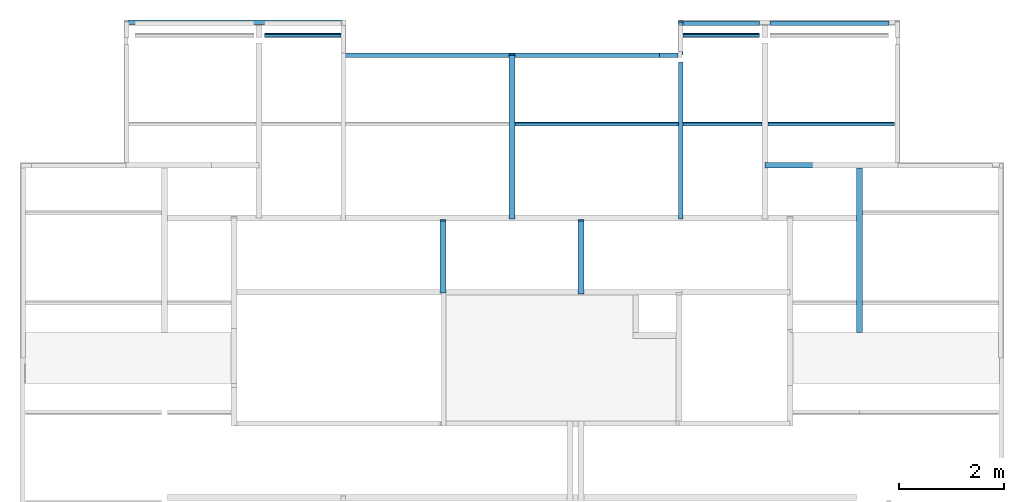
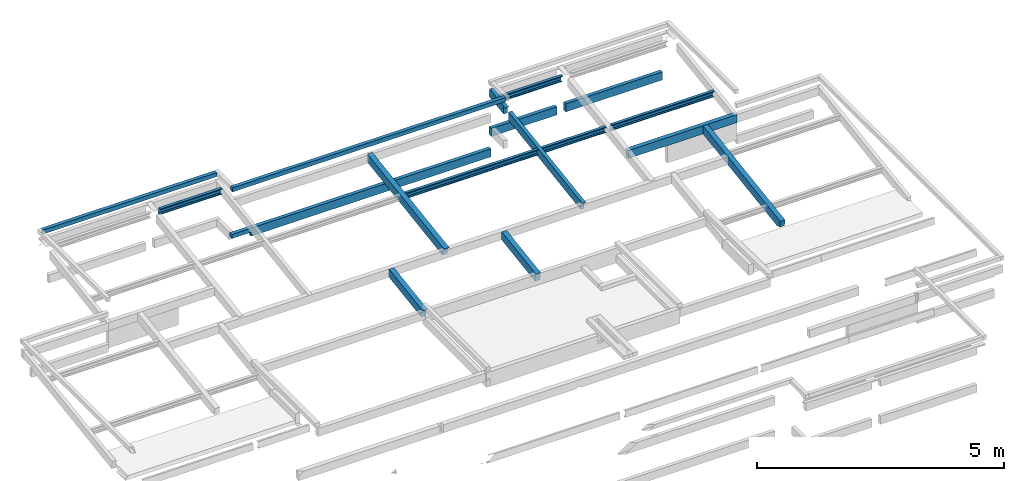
# One storey, part 5 of 9: 15 beams.
"""IFC4 building model written with IfcOpenShell, lengths in metres."""

import ifcopenshell
import ifcopenshell.guid

model = None  # the IFC model being written
_history = None  # IfcOwnerHistory: only IFC2X3 demands one
_inside = {}  # id of a spatial element -> (the spatial element, [elements in it])
_under = {}  # id of a project, library or spatial element -> (it, [spatial elements below it])
_declared = {}  # id of a project -> (the project, [libraries it declares])
_typed = {}  # id of a type object -> (the type object, [elements of that type])
_made_of = {}  # id of a material, layer set ... -> (it, [elements and type objects made of it])


def new_model(schema):
    """Start an empty IFC model of exactly this schema.

    Asked for "IFC4X3", IfcOpenShell would pick the latest addendum, in which some entities
    have other attributes; the version numbers below select the first issue.
    IFC2X3 requires an IfcOwnerHistory on every rooted entity: one is made here for all.
    """
    global model, _history
    if schema == "IFC4X3":
        model = ifcopenshell.file(schema_version=(4, 3, 0, 0))
    else:
        model = ifcopenshell.file(schema=schema)
    _inside.clear()
    _under.clear()
    _declared.clear()
    _typed.clear()
    _made_of.clear()
    _history = None
    if model.schema == "IFC2X3":
        org = make("IfcOrganization", Name="unknown")
        user = make(
            "IfcPersonAndOrganization",
            ThePerson=make("IfcPerson", FamilyName="unknown"),
            TheOrganization=org,
        )
        app = make(
            "IfcApplication",
            ApplicationDeveloper=org,
            Version="unknown",
            ApplicationFullName="unknown",
            ApplicationIdentifier="unknown",
        )
        _history = make(
            "IfcOwnerHistory",
            OwningUser=user,
            OwningApplication=app,
            ChangeAction="ADDED",
            CreationDate=0,
        )
    return model


def make(cls, **values):
    """One entity of the class cls with the attributes given. An attribute that is None is left unset."""
    return model.create_entity(
        cls, **{name: value for name, value in values.items() if value is not None}
    )


def entity(cls, *values):
    """Any entity or typed value of the class cls, its attributes in the order of the schema. None: left unset."""
    e = model.create_entity(cls)
    for i, value in enumerate(values):
        if value is not None:
            e[i] = value
    return e


def rooted(cls, **values):
    """An entity with a GlobalId (a new one), such as an element, a storey or a relation."""
    return make(cls, GlobalId=ifcopenshell.guid.new(), OwnerHistory=_history, **values)


def si_unit(unit_type, name, prefix=None):
    """IfcSIUnit, for example si_unit("LENGTHUNIT", "METRE", prefix="MILLI")."""
    return make("IfcSIUnit", UnitType=unit_type, Prefix=prefix, Name=name)


def converted_unit(unit_type, name, factor, base, dimensions=None, offset=None):
    """IfcConversionBasedUnit, such as the inch: factor (a typed value) times the base unit."""
    return make(
        "IfcConversionBasedUnit"
        if offset is None
        else "IfcConversionBasedUnitWithOffset",
        ConversionOffset=offset,
        Dimensions=None
        if dimensions is None
        else entity("IfcDimensionalExponents", *dimensions),
        UnitType=unit_type,
        Name=name,
        ConversionFactor=make(
            "IfcMeasureWithUnit", ValueComponent=factor, UnitComponent=base
        ),
    )


def derived_unit(unit_type, elements):
    """IfcDerivedUnit: a product of units, each with its exponent."""
    return make(
        "IfcDerivedUnit",
        Elements=[
            make("IfcDerivedUnitElement", Unit=unit, Exponent=power)
            for unit, power in elements
        ],
        UnitType=unit_type,
    )


def assignment(units):
    """IfcUnitAssignment: the units of a project."""
    return None if units is None else make("IfcUnitAssignment", Units=units)


def point(xyz):
    """IfcCartesianPoint."""
    return None if xyz is None else make("IfcCartesianPoint", Coordinates=xyz)


def direction(xyz):
    """IfcDirection."""
    return None if xyz is None else make("IfcDirection", DirectionRatios=xyz)


def frame(location, z_axis=None, x_axis=None):
    """IfcAxis2Placement3D, a coordinate frame: its origin and axes. An axis left out is left unset."""
    return make(
        "IfcAxis2Placement3D",
        Location=point(location),
        Axis=direction(z_axis),
        RefDirection=direction(x_axis),
    )


def origin():
    """The frame at (0, 0, 0) with its axes left unset."""
    return frame((0.0, 0.0, 0.0))


def place(relative_to, where):
    """IfcLocalPlacement: puts the frame where relative to a parent placement (None: the world)."""
    return make(
        "IfcLocalPlacement", PlacementRelTo=relative_to, RelativePlacement=where
    )


def context(
    kind, dimensions, precision=None, world=None, true_north=None, identifier=None
):
    """IfcGeometricRepresentationContext, for example the 3D "Model" context."""
    return make(
        "IfcGeometricRepresentationContext",
        ContextIdentifier=identifier,
        ContextType=kind,
        CoordinateSpaceDimension=dimensions,
        Precision=precision,
        WorldCoordinateSystem=world,
        TrueNorth=true_north,
    )


def subcontext(parent, identifier, kind, view, scale=None):
    """IfcGeometricRepresentationSubContext, for example "Body" below "Model"."""
    return make(
        "IfcGeometricRepresentationSubContext",
        ContextIdentifier=identifier,
        ContextType=kind,
        ParentContext=parent,
        TargetScale=scale,
        TargetView=view,
    )


def project(units=None, contexts=None):
    """IfcProject with its units and contexts."""
    return rooted(
        "IfcProject",
        Name="project",
        RepresentationContexts=contexts,
        UnitsInContext=assignment(units),
    )


def spatial(cls, under=None, at=None, **own):
    """A site, building, storey or space (cls), placed at a placement, below another one or the project."""
    s = rooted(cls, ObjectPlacement=at, **own)
    if under is not None:
        _under.setdefault(under.id(), (under, []))[1].append(s)
    return s


def point_list(points):
    """IfcCartesianPointList2D or 3D."""
    cls = (
        "IfcCartesianPointList2D" if len(points[0]) == 2 else "IfcCartesianPointList3D"
    )
    return make(cls, CoordList=points)


def line(*indices):
    """IfcLineIndex: a straight run through numbered points of an indexed curve."""
    return model.create_entity("IfcLineIndex", indices)


def arc(*indices):
    """IfcArcIndex: an arc through three numbered points of an indexed curve."""
    return model.create_entity("IfcArcIndex", indices)


def indexed_curve(points, segments=None, self_intersect=None):
    """IfcIndexedPolyCurve: lines and arcs through numbered points (the first is 1)."""
    return make(
        "IfcIndexedPolyCurve",
        Points=point_list(points),
        Segments=segments,
        SelfIntersect=self_intersect,
    )


def outline(outer, holes=None, kind="AREA"):
    """IfcArbitraryClosedProfileDef: a profile drawn as a closed curve; with holes, ...WithVoids."""
    if holes is None:
        return make("IfcArbitraryClosedProfileDef", ProfileType=kind, OuterCurve=outer)
    return make(
        "IfcArbitraryProfileDefWithVoids",
        ProfileType=kind,
        OuterCurve=outer,
        InnerCurves=holes,
    )


def extrude(swept, where, along, depth):
    """IfcExtrudedAreaSolid: the profile swept, set in the frame where, extruded along a direction by depth."""
    return make(
        "IfcExtrudedAreaSolid",
        SweptArea=swept,
        Position=where,
        ExtrudedDirection=direction(along),
        Depth=depth,
    )


def shape(context_of_items, identifier, shape_type, items):
    """IfcShapeRepresentation: the items that make up one representation, for example the "Body"."""
    return make(
        "IfcShapeRepresentation",
        ContextOfItems=context_of_items,
        RepresentationIdentifier=identifier,
        RepresentationType=shape_type,
        Items=items,
    )


def source(mapping_origin, context_of_items, identifier, shape_type, items):
    """IfcRepresentationMap: a shape defined once, which mapped items show again and again."""
    return make(
        "IfcRepresentationMap",
        MappingOrigin=mapping_origin,
        MappedRepresentation=shape(context_of_items, identifier, shape_type, items),
    )


def transform(
    local_origin,
    x_axis=None,
    y_axis=None,
    z_axis=None,
    scale=None,
    scale2=None,
    scale3=None,
    uniform=True,
):
    """IfcCartesianTransformationOperator3D, or its non-uniform kind. x_axis, y_axis, z_axis: its Axis1, 2, 3."""
    if uniform:
        return make(
            "IfcCartesianTransformationOperator3D",
            Axis1=direction(x_axis),
            Axis2=direction(y_axis),
            LocalOrigin=point(local_origin),
            Scale=scale,
            Axis3=direction(z_axis),
        )
    return make(
        "IfcCartesianTransformationOperator3DnonUniform",
        Axis1=direction(x_axis),
        Axis2=direction(y_axis),
        LocalOrigin=point(local_origin),
        Scale=scale,
        Axis3=direction(z_axis),
        Scale2=scale2,
        Scale3=scale3,
    )


def mapped(mapping_source, mapping_target):
    """IfcMappedItem: shows the shape of a source again, moved by a transform."""
    return make(
        "IfcMappedItem", MappingSource=mapping_source, MappingTarget=mapping_target
    )


def material(Name=None, Category=None):
    """IfcMaterial."""
    return make("IfcMaterial", Name=Name, Category=Category)


def made_of(thing, what):
    """Note that an element or type object is made of a material, layer set ...; save() writes the relation."""
    if what is not None:
        _made_of.setdefault(what.id(), (what, []))[1].append(thing)
    return thing


def type_object(cls, material=None, **own):
    """A type object (cls), such as IfcWallType, which elements share."""
    return made_of(rooted(cls, **own), material)


def type_shapes(of_type, sources):
    """Give a type object the sources (RepresentationMaps) that its elements show as mapped items."""
    of_type.RepresentationMaps = sources


def element(
    cls,
    number,
    at=None,
    inside=None,
    cuts=None,
    type_object=None,
    material=None,
    context=None,
    identifier="Body",
    shape_type=None,
    held_by="IfcProductDefinitionShape",
    body=None,
    shapes=None,
    **own,
):
    """One element of the class cls, such as IfcWall. Its Tag is "e" and its number.

    at: its placement. inside: the storey or other place that contains it. cuts: it is an
    opening in that element (IfcRelVoidsElement). A single representation is given by context,
    identifier, shape_type and body (its items); several are given by shapes. held_by: the class
    of the entity that holds the representations. save() writes the other relations.
    """
    e = rooted(cls, Tag="e%d" % number, ObjectPlacement=at, **own)
    if body is not None:
        shapes = [shape(context, identifier, shape_type, body)]
    if shapes is not None:
        e.Representation = make(held_by, Representations=shapes)
    if inside is not None:
        _inside.setdefault(inside.id(), (inside, []))[1].append(e)
    if cuts is not None:
        rooted(
            "IfcRelVoidsElement", RelatingBuildingElement=cuts, RelatedOpeningElement=e
        )
    if type_object is not None:
        _typed.setdefault(type_object.id(), (type_object, []))[1].append(e)
    return made_of(e, material)


def aggregate(whole, parts):
    """IfcRelAggregates: a whole, such as a stair, and the parts it consists of."""
    return rooted("IfcRelAggregates", RelatingObject=whole, RelatedObjects=parts)


def save(model, path):
    """Write the relations noted so far, then the file.

    IfcRelAggregates (storeys below a building ...), IfcRelContainedInSpatialStructure (elements
    in a storey), IfcRelDefinesByType, IfcRelAssociatesMaterial and IfcRelDeclares: one each for
    every whole, place, type object, material and project.
    """
    for whole, parts in _under.values():
        aggregate(whole, parts)
    for where, things in _inside.values():
        rooted(
            "IfcRelContainedInSpatialStructure",
            RelatedElements=things,
            RelatingStructure=where,
        )
    for kind, things in _typed.values():
        rooted("IfcRelDefinesByType", RelatedObjects=things, RelatingType=kind)
    for what, things in _made_of.values():
        rooted("IfcRelAssociatesMaterial", RelatedObjects=things, RelatingMaterial=what)
    for by, libraries in _declared.values():
        rooted("IfcRelDeclares", RelatingContext=by, RelatedDefinitions=libraries)
    model.write(path)


model = new_model("IFC4")

# Units and contexts
model_context = context("Model", 3, precision=1e-05, world=origin(), true_north=direction((6.123031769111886e-17, 1.0)))
body_context = subcontext(model_context, "Body", "Model", "MODEL_VIEW")
ifc_project = project(units=[si_unit("LENGTHUNIT", "METRE"), si_unit("AREAUNIT", "SQUARE_METRE"), si_unit("VOLUMEUNIT", "CUBIC_METRE"), converted_unit("PLANEANGLEUNIT", "DEGREE", entity("IfcRatioMeasure", 0.017453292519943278), si_unit("PLANEANGLEUNIT", "RADIAN"), dimensions=[0, 0, 0, 0, 0, 0, 0]), si_unit("MASSUNIT", "GRAM", prefix="KILO"), derived_unit("MASSDENSITYUNIT", [(si_unit("MASSUNIT", "GRAM", prefix="KILO"), 1), (si_unit("LENGTHUNIT", "METRE"), -3)]), derived_unit("IONCONCENTRATIONUNIT", [(si_unit("MASSUNIT", "GRAM", prefix="KILO"), 1), (si_unit("LENGTHUNIT", "METRE"), -3)]), derived_unit("MOMENTOFINERTIAUNIT", [(si_unit("LENGTHUNIT", "METRE"), 4)]), si_unit("TIMEUNIT", "SECOND"), si_unit("FREQUENCYUNIT", "HERTZ"), si_unit("THERMODYNAMICTEMPERATUREUNIT", "DEGREE_CELSIUS"), derived_unit("THERMALTRANSMITTANCEUNIT", [(si_unit("MASSUNIT", "GRAM", prefix="KILO"), 1), (si_unit("THERMODYNAMICTEMPERATUREUNIT", "KELVIN"), -1), (si_unit("TIMEUNIT", "SECOND"), -3)]), derived_unit("THERMALCONDUCTANCEUNIT", [(si_unit("MASSUNIT", "GRAM", prefix="KILO"), 1), (si_unit("THERMODYNAMICTEMPERATUREUNIT", "KELVIN"), -1), (si_unit("TIMEUNIT", "SECOND"), -3), (si_unit("LENGTHUNIT", "METRE"), 1)]), derived_unit("VOLUMETRICFLOWRATEUNIT", [(si_unit("LENGTHUNIT", "METRE"), 3), (si_unit("TIMEUNIT", "SECOND"), -1)]), derived_unit("MASSFLOWRATEUNIT", [(si_unit("MASSUNIT", "GRAM", prefix="KILO"), 1), (si_unit("TIMEUNIT", "SECOND"), -1)]), derived_unit("ROTATIONALFREQUENCYUNIT", [(si_unit("TIMEUNIT", "SECOND"), -1)]), si_unit("ELECTRICCURRENTUNIT", "AMPERE"), si_unit("ELECTRICVOLTAGEUNIT", "VOLT"), si_unit("POWERUNIT", "WATT"), si_unit("FORCEUNIT", "NEWTON", prefix="KILO"), si_unit("ILLUMINANCEUNIT", "LUX"), si_unit("LUMINOUSFLUXUNIT", "LUMEN"), si_unit("LUMINOUSINTENSITYUNIT", "CANDELA"), derived_unit("USERDEFINED", [(si_unit("MASSUNIT", "GRAM", prefix="KILO"), -1), (si_unit("LENGTHUNIT", "METRE"), -2), (si_unit("TIMEUNIT", "SECOND"), 3), (si_unit("LUMINOUSFLUXUNIT", "LUMEN"), 1)]), derived_unit("USERDEFINED", [(si_unit("MASSUNIT", "GRAM", prefix="KILO"), 1), (si_unit("TIMEUNIT", "SECOND"), -3), (si_unit("LENGTHUNIT", "METRE"), 3), (si_unit("ELECTRICCURRENTUNIT", "AMPERE"), -2)]), derived_unit("SOUNDPOWERUNIT", [(si_unit("MASSUNIT", "GRAM", prefix="KILO"), 1), (si_unit("TIMEUNIT", "SECOND"), -3), (si_unit("LENGTHUNIT", "METRE"), 2)]), derived_unit("SOUNDPRESSUREUNIT", [(si_unit("MASSUNIT", "GRAM", prefix="KILO"), 1), (si_unit("LENGTHUNIT", "METRE"), -1), (si_unit("TIMEUNIT", "SECOND"), -2)]), derived_unit("LINEARVELOCITYUNIT", [(si_unit("LENGTHUNIT", "METRE"), 1), (si_unit("TIMEUNIT", "SECOND"), -1)]), si_unit("PRESSUREUNIT", "PASCAL"), derived_unit("USERDEFINED", [(si_unit("MASSUNIT", "GRAM", prefix="KILO"), 1), (si_unit("LENGTHUNIT", "METRE"), -2), (si_unit("TIMEUNIT", "SECOND"), -2)]), derived_unit("LINEARFORCEUNIT", [(si_unit("MASSUNIT", "GRAM", prefix="KILO"), 1), (si_unit("TIMEUNIT", "SECOND"), -2)]), derived_unit("PLANARFORCEUNIT", [(si_unit("MASSUNIT", "GRAM", prefix="KILO"), 1), (si_unit("LENGTHUNIT", "METRE"), -1), (si_unit("TIMEUNIT", "SECOND"), -2)]), derived_unit("SPECIFICHEATCAPACITYUNIT", [(si_unit("THERMODYNAMICTEMPERATUREUNIT", "KELVIN"), -1), (si_unit("LENGTHUNIT", "METRE"), 2), (si_unit("TIMEUNIT", "SECOND"), -2)]), derived_unit("HEATINGVALUEUNIT", [(si_unit("LENGTHUNIT", "METRE"), 2), (si_unit("TIMEUNIT", "SECOND"), -2)]), derived_unit("VAPORPERMEABILITYUNIT", [(si_unit("LENGTHUNIT", "METRE"), -1), (si_unit("TIMEUNIT", "SECOND"), 1)]), derived_unit("DYNAMICVISCOSITYUNIT", [(si_unit("MASSUNIT", "GRAM", prefix="KILO"), 1), (si_unit("TIMEUNIT", "SECOND"), -1), (si_unit("LENGTHUNIT", "METRE"), -1)]), derived_unit("THERMALEXPANSIONCOEFFICIENTUNIT", [(si_unit("THERMODYNAMICTEMPERATUREUNIT", "KELVIN"), -1)]), derived_unit("MODULUSOFELASTICITYUNIT", [(si_unit("MASSUNIT", "GRAM", prefix="KILO"), 1), (si_unit("LENGTHUNIT", "METRE"), -1), (si_unit("TIMEUNIT", "SECOND"), -2)]), derived_unit("ISOTHERMALMOISTURECAPACITYUNIT", [(si_unit("LENGTHUNIT", "METRE"), 3), (si_unit("MASSUNIT", "GRAM", prefix="KILO"), -1)]), derived_unit("MOISTUREDIFFUSIVITYUNIT", [(si_unit("TIMEUNIT", "SECOND"), -1), (si_unit("LENGTHUNIT", "METRE"), 2)])], contexts=[model_context])

# Site, building, storey
site_placement = place(None, origin())
site = spatial("IfcSite", under=ifc_project, at=site_placement, Name="Default", CompositionType="ELEMENT")
building_placement = place(site_placement, origin())
building = spatial("IfcBuilding", under=site, at=building_placement, Name="Las nubes", CompositionType="ELEMENT")
storey_placement = place(building_placement, frame((0.0, 0.0, 14.100000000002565)))
storey = spatial("IfcBuildingStorey", under=building, at=storey_placement, Name="CUBIERTA", CompositionType="ELEMENT", Elevation=14.100000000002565)

# Beams
ifc_material_1 = material(Name="Concrete, Cast In Situ", Category="Materials")
beam_type_1 = type_object("IfcBeamType", Name="M_Concrete-Rectangular Beam:(0.085x0.20)", PredefinedType="BEAM", material=ifc_material_1)
shared_shape_1 = source(origin(), body_context, "Body", "SweptSolid", [
    extrude(outline(indexed_curve([(1.7200000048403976, 4.331468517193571e-15), (2.170000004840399, 4.331468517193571e-15), (2.170000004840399, 0.09999999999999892), (-3.890000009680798, 0.09999999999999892), (-3.890000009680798, -0.10000000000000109), (1.7200000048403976, -0.10000000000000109), (1.7200000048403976, 4.331468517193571e-15)], self_intersect=False)), frame((8.237499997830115, -0.7100000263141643, 14.10000000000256), z_axis=(0.0, 1.0, 0.0), x_axis=(-1.0, 0.0, 0.0)), (0.0, 0.0, 1.0), 0.08500000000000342),
])
type_shapes(beam_type_1, [shared_shape_1])
beam_1_placement = place(storey_placement, frame((0.0, 0.0, -14.100000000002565)))
element("IfcBeam", 1, at=beam_1_placement, inside=storey, type_object=beam_type_1, material=ifc_material_1, Name="M_Concrete-Rectangular Beam:(0.085x0.20)", ObjectType="M_Concrete-Rectangular Beam:(0.085x0.20)", PredefinedType="BEAM", context=body_context, shape_type="MappedRepresentation", body=[
    mapped(shared_shape_1, transform((0.0, 0.0, 0.0), scale=1.0)),
])
beam_type_2 = type_object("IfcBeamType", Name="M_Concrete-Rectangular Beam:(0.085x0.20)", PredefinedType="BEAM", material=ifc_material_1)
shared_shape_2 = source(origin(), body_context, "Body", "SweptSolid", [
    extrude(outline(indexed_curve([(-0.10000000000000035, -0.0425000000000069), (0.09999999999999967, -0.042499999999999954), (0.09999999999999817, 0.04250000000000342), (-0.10000000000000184, 0.04249999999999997), (-0.10000000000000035, -0.0425000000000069)], self_intersect=False)), frame((16.497500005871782, -0.052500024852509, 14.100000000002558), z_axis=(-1.0, 0.0, 0.0), x_axis=(0.0, 0.0, -1.0)), (0.0, 0.0, 1.0), 2.2624999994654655),
    extrude(outline(indexed_curve([(-0.10000000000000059, -0.04250000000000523), (0.09999999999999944, -0.04250000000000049), (0.09999999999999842, 0.04250000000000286), (-0.1000000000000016, 0.04250000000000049), (-0.10000000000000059, -0.04250000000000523)], self_intersect=False)), frame((14.035000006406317, -0.05250002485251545, 14.100000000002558), z_axis=(-1.0, 0.0, 0.0), x_axis=(0.0, 0.0, -1.0)), (0.0, 0.0, 1.0), 1.5424999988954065),
])
type_shapes(beam_type_2, [shared_shape_2])
beam_2_placement = place(storey_placement, frame((0.0, 0.0, -14.100000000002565)))
element("IfcBeam", 2, at=beam_2_placement, inside=storey, type_object=beam_type_2, material=ifc_material_1, Name="M_Concrete-Rectangular Beam:(0.085x0.20)", ObjectType="M_Concrete-Rectangular Beam:(0.085x0.20)", PredefinedType="BEAM", context=body_context, shape_type="MappedRepresentation", body=[
    mapped(shared_shape_2, transform((0.0, 0.0, 0.0), scale=1.0)),
])
ifc_material_2 = material(Name="Concrete - Cast-in-Place Concrete - 35 MPa", Category="Materials")
beam_type_3 = type_object("IfcBeamType", Name="M_Concrete-Rectangular Beam:(0.12x0.20)", PredefinedType="BEAM", material=ifc_material_2)
shared_shape_3 = source(origin(), body_context, "Body", "SweptSolid", [
    extrude(outline(indexed_curve([(-1.7954389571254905, -0.08905437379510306), (1.354242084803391, -0.0890543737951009), (1.354242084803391, -0.08265873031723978), (1.2836465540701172, -0.07206940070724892), (1.3110988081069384, 0.11094562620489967), (-1.712351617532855, 0.1109456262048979), (-1.7954389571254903, 0.11094562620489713), (-1.7954389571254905, -0.08905437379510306)], self_intersect=False)), frame((9.262500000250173, -2.429864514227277, 14.695344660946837), z_axis=(1.0, 0.0, 0.0), x_axis=(0.0, -0.988936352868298, -0.14834045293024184)), (0.0, 0.0, 1.0), 0.12000000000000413),
])
type_shapes(beam_type_3, [shared_shape_3])
beam_3_placement = place(storey_placement, frame((0.0, 0.0, -14.100000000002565)))
element("IfcBeam", 3, at=beam_3_placement, inside=storey, type_object=beam_type_3, material=ifc_material_2, Name="M_Concrete-Rectangular Beam:(0.12x0.20)", ObjectType="M_Concrete-Rectangular Beam:(0.12x0.20)", PredefinedType="BEAM", context=body_context, shape_type="MappedRepresentation", body=[
    mapped(shared_shape_3, transform((0.0, 0.0, 0.0), scale=1.0)),
])
beam_type_4 = type_object("IfcBeamType", Name="M_Concrete-Rectangular Beam:(0.115x0.20)", PredefinedType="BEAM", material=ifc_material_1)
shared_shape_4 = source(origin(), body_context, "Body", "SweptSolid", [
    extrude(outline(indexed_curve([(-0.09999999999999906, -0.05750000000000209), (0.1000000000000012, -0.05750000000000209), (0.1000000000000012, 0.05750000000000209), (-0.09999999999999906, 0.05750000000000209), (-0.09999999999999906, -0.05750000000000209)], self_intersect=False)), frame((10.63999999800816, -5.191473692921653, 14.27003520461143), z_axis=(0.0, 0.9889363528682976, 0.14834045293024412), x_axis=(0.0, -0.14834045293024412, 0.9889363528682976)), (0.0, 0.0, 1.0), 1.3981096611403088),
])
type_shapes(beam_type_4, [shared_shape_4])
beam_4_placement = place(storey_placement, frame((0.0, 0.0, -14.100000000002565)))
element("IfcBeam", 4, at=beam_4_placement, inside=storey, type_object=beam_type_4, material=ifc_material_1, Name="M_Concrete-Rectangular Beam:(0.115x0.20)", ObjectType="M_Concrete-Rectangular Beam:(0.115x0.20)", PredefinedType="BEAM", context=body_context, shape_type="MappedRepresentation", body=[
    mapped(shared_shape_4, transform((0.0, 0.0, 0.0), scale=1.0)),
])
beam_type_5 = type_object("IfcBeamType", Name="M_Concrete-Rectangular Beam:(0.115x0.20)", PredefinedType="BEAM", material=ifc_material_1)
shared_shape_5 = source(origin(), body_context, "Body", "SweptSolid", [
    extrude(outline(indexed_curve([(-0.0823067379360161, -0.7210583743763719), (-0.07623836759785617, -0.7210583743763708), (0.07820912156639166, -0.721058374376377), (0.09186967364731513, -0.6299880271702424), (0.11769326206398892, -0.6338615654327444), (0.1176932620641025, 2.4148685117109), (-0.08230673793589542, 2.444868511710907), (-0.08230673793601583, -0.7125641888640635), (-0.08230673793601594, -0.7201481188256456), (-0.0823067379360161, -0.7210583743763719)], self_intersect=False)), frame((15.877498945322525, -5.2156099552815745, 14.284305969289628), z_axis=(1.0, 0.0, 0.0), x_axis=(0.0, 0.14834045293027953, -0.9889363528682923)), (0.0, 0.0, 1.0), 0.11500000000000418),
])
type_shapes(beam_type_5, [shared_shape_5])
beam_5_placement = place(storey_placement, frame((0.0, 0.0, -14.100000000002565)))
element("IfcBeam", 5, at=beam_5_placement, inside=storey, type_object=beam_type_5, material=ifc_material_1, Name="M_Concrete-Rectangular Beam:(0.115x0.20)", ObjectType="M_Concrete-Rectangular Beam:(0.115x0.20)", PredefinedType="BEAM", context=body_context, shape_type="MappedRepresentation", body=[
    mapped(shared_shape_5, transform((0.0, 0.0, 0.0), scale=1.0)),
])
beam_type_6 = type_object("IfcBeamType", Name="M_Concrete-Rectangular Beam:(0.085x0.20)", PredefinedType="BEAM", material=ifc_material_1)
shared_shape_6 = source(origin(), body_context, "Body", "SweptSolid", [
    extrude(outline(indexed_curve([(-1.0190987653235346, 0.08797915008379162), (-1.0200474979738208, 0.08165426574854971), (1.967286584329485, -0.36644584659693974), (1.9672865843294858, -0.16420836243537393), (-0.9477134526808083, 0.2730416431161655), (-0.9477134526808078, 0.08797915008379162), (-1.0190987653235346, 0.08797915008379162)], self_intersect=False)), frame((12.492500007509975, -2.7622866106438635, 14.664179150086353), z_axis=(-1.0, 0.0, 0.0), x_axis=(0.0, 1.0, 0.0)), (0.0, 0.0, -1.0), 0.08500000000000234),
    extrude(outline(indexed_curve([(-0.3588825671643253, -0.08210148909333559), (0.27648017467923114, -0.08210148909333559), (0.20643053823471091, -0.07159404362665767), (0.23485442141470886, 0.11789851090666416), (-0.35888256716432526, 0.11789851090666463), (-0.3588825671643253, -0.08210148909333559)], self_intersect=False)), frame((12.492500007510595, -0.38023306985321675, 15.009820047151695), z_axis=(1.0, 0.0, 0.0), x_axis=(0.0, -0.9889363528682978, -0.14834045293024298)), (0.0, 0.0, 1.0), 0.08500000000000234),
])
type_shapes(beam_type_6, [shared_shape_6])
beam_6_placement = place(storey_placement, frame((0.0, 0.0, -14.100000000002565)))
element("IfcBeam", 6, at=beam_6_placement, inside=storey, type_object=beam_type_6, material=ifc_material_1, Name="M_Concrete-Rectangular Beam:(0.085x0.20)", ObjectType="M_Concrete-Rectangular Beam:(0.085x0.20)", PredefinedType="BEAM", context=body_context, shape_type="MappedRepresentation", body=[
    mapped(shared_shape_6, transform((0.0, 0.0, 0.0), scale=1.0)),
])
ifc_material_3 = material(Name="Concrete - Cast-in-Place Concrete - 28 MPa SLAB", Category="Materials")
beam_type_7 = type_object("IfcBeamType", Name="M_Concrete-Rectangular Beam:(0.10x0.20)", PredefinedType="BEAM", material=ifc_material_3)
shared_shape_7 = source(origin(), body_context, "Body", "SweptSolid", [
    extrude(outline(indexed_curve([(-0.10000000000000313, -0.04999999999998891), (0.0999999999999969, -0.050000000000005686), (0.10000000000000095, 0.04999999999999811), (-0.09999999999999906, 0.05000000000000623), (-0.10000000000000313, -0.04999999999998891)], self_intersect=False)), frame((16.67000000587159, -2.7600000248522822, 14.628300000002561), z_axis=(-1.0, 0.0, 0.0), x_axis=(0.0, 0.0, -1.0)), (0.0, 0.0, 1.0), 2.5349999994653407),
])
type_shapes(beam_type_7, [shared_shape_7])
beam_7_placement = place(storey_placement, frame((0.0, 0.0, -14.100000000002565)))
element("IfcBeam", 7, at=beam_7_placement, inside=storey, type_object=beam_type_7, material=ifc_material_3, Name="M_Concrete-Rectangular Beam:(0.10x0.20)", ObjectType="M_Concrete-Rectangular Beam:(0.10x0.20)", PredefinedType="BEAM", context=body_context, shape_type="MappedRepresentation", body=[
    mapped(shared_shape_7, transform((0.0, 0.0, 0.0), scale=1.0)),
])
ifc_material_4 = material(Name="Steel - 300+", Category="Materials")
beam_type_8 = type_object("IfcBeamType", Name="AUS-C Purlin:CR-1", PredefinedType="BEAM", material=ifc_material_4)
shared_shape_8 = source(origin(), body_context, "Body", "SweptSolid", [
    extrude(outline(indexed_curve([(-0.07614999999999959, -0.03615000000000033), (0.07334999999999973, -0.036150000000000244), (0.078299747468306, -0.03409974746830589), (0.08035000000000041, -0.02914999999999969), (0.08035000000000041, 0.020350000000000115), (0.07932487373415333, 0.022824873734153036), (0.0768500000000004, 0.023850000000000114), (0.06034999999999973, 0.023850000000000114), (0.06034999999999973, 0.02185000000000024), (0.0768499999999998, 0.02185000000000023), (0.07791066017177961, 0.02141066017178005), (0.07834999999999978, 0.020350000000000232), (0.07834999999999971, -0.029150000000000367), (0.07688553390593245, -0.032685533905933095), (0.07334999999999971, -0.03415000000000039), (-0.07615000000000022, -0.03415000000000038), (-0.07721066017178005, -0.033710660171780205), (-0.0776500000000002, -0.03265000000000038), (-0.07765000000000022, 0.02035000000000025), (-0.07721066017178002, 0.021410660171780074), (-0.0761500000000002, 0.02185000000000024), (-0.05965000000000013, 0.02185000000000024), (-0.05965000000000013, 0.023850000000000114), (-0.0761499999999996, 0.023850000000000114), (-0.07862487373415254, 0.02282487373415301), (-0.07964999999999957, 0.020350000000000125), (-0.07964999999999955, -0.032650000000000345), (-0.07862487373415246, -0.03512487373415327)], segments=[line(1, 2), arc(2, 3, 4), line(4, 5), arc(5, 6, 7), line(7, 8, 9, 10), arc(10, 11, 12), line(12, 13), arc(13, 14, 15), line(15, 16), arc(16, 17, 18), line(18, 19), arc(19, 20, 21), line(21, 22, 23, 24), arc(24, 25, 26), line(26, 27), arc(27, 28, 1)], self_intersect=False)), frame((-0.7574999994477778, 0.03415000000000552, 0.0003499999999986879), z_axis=(1.0, 0.0, 0.0), x_axis=(0.0, 0.0, -1.0)), (0.0, 0.0, 1.0), 1.4574999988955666),
])
type_shapes(beam_type_8, [shared_shape_8])
beam_8_placement = place(storey_placement, frame((5.309999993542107, -0.25573925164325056, 0.9306191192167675), z_axis=(0.0, -0.14834045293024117, 0.9889363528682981), x_axis=(-1.0, 0.0, 0.0)))
element("IfcBeam", 8, at=beam_8_placement, inside=storey, type_object=beam_type_8, material=ifc_material_4, Name="AUS-C Purlin:CR-1", ObjectType="AUS-C Purlin:CR-1", PredefinedType="BEAM", context=body_context, shape_type="MappedRepresentation", body=[
    mapped(shared_shape_8, transform((0.0, 0.0, 0.0), scale=1.0)),
])
beam_type_9 = type_object("IfcBeamType", Name="AUS-C Purlin:CR-1", PredefinedType="BEAM", material=ifc_material_4)
shared_shape_9 = source(origin(), body_context, "Body", "SweptSolid", [
    extrude(outline(indexed_curve([(-0.07614999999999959, -0.03615000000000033), (0.07334999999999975, -0.036150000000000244), (0.07829974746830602, -0.03409974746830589), (0.08035000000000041, -0.02914999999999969), (0.08035000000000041, 0.020350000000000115), (0.07932487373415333, 0.022824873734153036), (0.0768500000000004, 0.023850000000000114), (0.060349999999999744, 0.023850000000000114), (0.060349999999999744, 0.02185000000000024), (0.0768499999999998, 0.02185000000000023), (0.07791066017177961, 0.02141066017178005), (0.07834999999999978, 0.020350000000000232), (0.07834999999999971, -0.029150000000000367), (0.07688553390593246, -0.032685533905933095), (0.07334999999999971, -0.03415000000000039), (-0.07615000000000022, -0.03415000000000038), (-0.07721066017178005, -0.033710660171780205), (-0.0776500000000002, -0.03265000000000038), (-0.07765000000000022, 0.02035000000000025), (-0.07721066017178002, 0.021410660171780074), (-0.0761500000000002, 0.02185000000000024), (-0.05965000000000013, 0.02185000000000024), (-0.05965000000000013, 0.023850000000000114), (-0.0761499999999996, 0.023850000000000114), (-0.07862487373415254, 0.02282487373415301), (-0.07964999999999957, 0.020350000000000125), (-0.07964999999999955, -0.032650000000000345), (-0.07862487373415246, -0.03512487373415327)], segments=[line(1, 2), arc(2, 3, 4), line(4, 5), arc(5, 6, 7), line(7, 8, 9, 10), arc(10, 11, 12), line(12, 13), arc(13, 14, 15), line(15, 16), arc(16, 17, 18), line(18, 19), arc(19, 20, 21), line(21, 22, 23, 24), arc(24, 25, 26), line(26, 27), arc(27, 28, 1)], self_intersect=False)), frame((-0.6999999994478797, 0.03415000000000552, 0.0003499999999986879), z_axis=(1.0, 0.0, 0.0), x_axis=(0.0, 0.0, -1.0)), (0.0, 0.0, 1.0), 1.457499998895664),
])
type_shapes(beam_type_9, [shared_shape_9])
beam_9_placement = place(storey_placement, frame((13.33500000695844, -0.255739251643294, 0.9306191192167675), z_axis=(0.0, -0.14834045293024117, 0.9889363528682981), x_axis=(-1.0, 0.0, 0.0)))
element("IfcBeam", 9, at=beam_9_placement, inside=storey, type_object=beam_type_9, material=ifc_material_4, Name="AUS-C Purlin:CR-1", ObjectType="AUS-C Purlin:CR-1", PredefinedType="BEAM", context=body_context, shape_type="MappedRepresentation", body=[
    mapped(shared_shape_9, transform((0.0, 0.0, 0.0), scale=1.0)),
])
beam_type_10 = type_object("IfcBeamType", Name="AUS-C Purlin:CR-1", PredefinedType="BEAM", material=ifc_material_4)
shared_shape_10 = source(origin(), body_context, "Body", "SweptSolid", [
    extrude(outline(indexed_curve([(-0.0761499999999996, -0.023850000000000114), (-0.05965000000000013, -0.023850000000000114), (-0.05965000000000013, -0.02185000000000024), (-0.07615000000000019, -0.02185000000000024), (-0.07721066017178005, -0.021410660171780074), (-0.07765000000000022, -0.020350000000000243), (-0.07765000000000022, 0.03265000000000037), (-0.07721066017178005, 0.033710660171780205), (-0.0761500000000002, 0.03415000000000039), (0.07334999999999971, 0.03415000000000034), (0.07688553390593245, 0.03268553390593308), (0.07834999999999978, 0.029150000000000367), (0.07834999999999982, -0.02035000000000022), (0.07791066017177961, -0.02141066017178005), (0.0768499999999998, -0.02185000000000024), (0.06034999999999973, -0.02185000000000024), (0.06034999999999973, -0.023850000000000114), (0.0768500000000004, -0.023850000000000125), (0.07932487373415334, -0.022824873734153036), (0.08035000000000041, -0.020350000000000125), (0.08035000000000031, 0.029149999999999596), (0.078299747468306, 0.034099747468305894), (0.0733499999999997, 0.03615000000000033), (-0.07614999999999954, 0.036150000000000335), (-0.07862487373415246, 0.03512487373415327), (-0.0796499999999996, 0.032650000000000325), (-0.0796499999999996, -0.020350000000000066), (-0.07862487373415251, -0.022824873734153)], segments=[line(1, 2, 3, 4), arc(4, 5, 6), line(6, 7), arc(7, 8, 9), line(9, 10), arc(10, 11, 12), line(12, 13), arc(13, 14, 15), line(15, 16, 17, 18), arc(18, 19, 20), line(20, 21), arc(21, 22, 23), line(23, 24), arc(24, 25, 26), line(26, 27), arc(27, 28, 1)], self_intersect=False)), frame((-1.5460930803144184, -0.03415000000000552, 0.00034999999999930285), z_axis=(1.0, 0.0, 0.0), x_axis=(0.0, 0.0, -1.0)), (0.0, 0.0, 1.0), 3.1098430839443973),
])
type_shapes(beam_type_10, [shared_shape_10])
beam_10_placement = place(storey_placement, frame((10.928750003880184, -1.9454425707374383, 0.6771636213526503), z_axis=(0.0, -0.14834045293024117, 0.9889363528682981), x_axis=(1.0, 0.0, 0.0)))
element("IfcBeam", 10, at=beam_10_placement, inside=storey, type_object=beam_type_10, material=ifc_material_4, Name="AUS-C Purlin:CR-1", ObjectType="AUS-C Purlin:CR-1", PredefinedType="BEAM", context=body_context, shape_type="MappedRepresentation", body=[
    mapped(shared_shape_10, transform((0.0, 0.0, 0.0), scale=1.0)),
])
beam_type_11 = type_object("IfcBeamType", Name="AUS-C Purlin:CR-1", PredefinedType="BEAM", material=ifc_material_4)
shared_shape_11 = source(origin(), body_context, "Body", "SweptSolid", [
    extrude(outline(indexed_curve([(-0.07614999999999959, -0.023850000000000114), (-0.05965000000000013, -0.023850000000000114), (-0.05965000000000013, -0.02185000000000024), (-0.07615000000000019, -0.02185000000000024), (-0.07721066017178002, -0.021410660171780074), (-0.0776500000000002, -0.020350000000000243), (-0.07765000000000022, 0.03265000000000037), (-0.07721066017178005, 0.033710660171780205), (-0.0761500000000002, 0.03415000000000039), (0.0733499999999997, 0.03415000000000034), (0.07688553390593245, 0.03268553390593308), (0.07834999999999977, 0.029150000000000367), (0.07834999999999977, -0.02035000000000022), (0.07791066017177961, -0.021410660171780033), (0.07684999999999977, -0.02185000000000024), (0.06034999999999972, -0.02185000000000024), (0.06034999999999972, -0.023850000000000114), (0.07685000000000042, -0.023850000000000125), (0.07932487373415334, -0.022824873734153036), (0.0803500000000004, -0.020350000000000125), (0.0803500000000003, 0.029149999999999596), (0.078299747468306, 0.034099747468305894), (0.07334999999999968, 0.03615000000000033), (-0.07614999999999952, 0.036150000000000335), (-0.07862487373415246, 0.03512487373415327), (-0.07964999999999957, 0.032650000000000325), (-0.07964999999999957, -0.020350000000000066), (-0.07862487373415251, -0.022824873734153)], segments=[line(1, 2, 3, 4), arc(4, 5, 6), line(6, 7), arc(7, 8, 9), line(9, 10), arc(10, 11, 12), line(12, 13), arc(13, 14, 15), line(15, 16, 17, 18), arc(18, 19, 20), line(20, 21), arc(21, 22, 23), line(23, 24), arc(24, 25, 26), line(26, 27), arc(27, 28, 1)], self_intersect=False)), frame((-0.7567470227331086, -0.03415000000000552, 0.0003499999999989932), z_axis=(1.0, 0.0, 0.0), x_axis=(0.0, 0.0, -1.0)), (0.0, 0.0, 1.0), 1.4992470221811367),
])
type_shapes(beam_type_11, [shared_shape_11])
beam_11_placement = place(storey_placement, frame((13.33500000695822, -1.9454425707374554, 0.6771636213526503), z_axis=(0.0, -0.14834045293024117, 0.9889363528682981), x_axis=(1.0, 0.0, 0.0)))
element("IfcBeam", 11, at=beam_11_placement, inside=storey, type_object=beam_type_11, material=ifc_material_4, Name="AUS-C Purlin:CR-1", ObjectType="AUS-C Purlin:CR-1", PredefinedType="BEAM", context=body_context, shape_type="MappedRepresentation", body=[
    mapped(shared_shape_11, transform((0.0, 0.0, 0.0), scale=1.0)),
])
beam_type_12 = type_object("IfcBeamType", Name="AUS-C Purlin:CR-1", PredefinedType="BEAM", material=ifc_material_4)
shared_shape_12 = source(origin(), body_context, "Body", "SweptSolid", [
    extrude(outline(indexed_curve([(-0.07614999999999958, -0.023850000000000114), (-0.05965000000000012, -0.023850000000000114), (-0.05965000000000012, -0.02185000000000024), (-0.07615000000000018, -0.02185000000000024), (-0.07721066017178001, -0.021410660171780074), (-0.07765000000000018, -0.020350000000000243), (-0.0776500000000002, 0.03265000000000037), (-0.07721066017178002, 0.033710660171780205), (-0.07615000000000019, 0.03415000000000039), (0.07334999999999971, 0.03415000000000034), (0.07688553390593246, 0.03268553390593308), (0.07834999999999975, 0.029150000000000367), (0.07834999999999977, -0.02035000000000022), (0.07791066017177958, -0.02141066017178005), (0.07684999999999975, -0.02185000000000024), (0.060349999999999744, -0.02185000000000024), (0.060349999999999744, -0.023850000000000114), (0.0768500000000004, -0.023850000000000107), (0.07932487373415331, -0.022824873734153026), (0.08035000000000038, -0.020350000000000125), (0.08035000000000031, 0.029149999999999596), (0.07829974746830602, 0.034099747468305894), (0.0733499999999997, 0.03615000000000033), (-0.07614999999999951, 0.036150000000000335), (-0.07862487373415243, 0.03512487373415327), (-0.07964999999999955, 0.032650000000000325), (-0.07964999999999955, -0.020350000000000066), (-0.0786248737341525, -0.022824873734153)], segments=[line(1, 2, 3, 4), arc(4, 5, 6), line(6, 7), arc(7, 8, 9), line(9, 10), arc(10, 11, 12), line(12, 13), arc(13, 14, 15), line(15, 16, 17, 18), arc(18, 19, 20), line(20, 21), arc(21, 22, 23), line(23, 24), arc(24, 25, 26), line(26, 27), arc(27, 28, 1)], self_intersect=False)), frame((-1.2019756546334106, -0.03415000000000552, 0.0003499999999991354), z_axis=(1.0, 0.0, 0.0), x_axis=(0.0, 0.0, -1.0)), (0.0, 0.0, 1.0), 2.4134592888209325),
])
type_shapes(beam_type_12, [shared_shape_12])
beam_12_placement = place(storey_placement, frame((15.395000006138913, -1.9454425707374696, 0.6771636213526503), z_axis=(0.0, -0.14834045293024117, 0.9889363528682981), x_axis=(1.0, 0.0, 0.0)))
element("IfcBeam", 12, at=beam_12_placement, inside=storey, type_object=beam_type_12, material=ifc_material_4, Name="AUS-C Purlin:CR-1", ObjectType="AUS-C Purlin:CR-1", PredefinedType="BEAM", context=body_context, shape_type="MappedRepresentation", body=[
    mapped(shared_shape_12, transform((0.0, 0.0, 0.0), scale=1.0)),
])
beam_type_13 = type_object("IfcBeamType", Name="M_Concrete-Rectangular Beam:(0.115x0.20)", PredefinedType="BEAM", material=ifc_material_1)
shared_shape_13 = source(origin(), body_context, "Body", "SweptSolid", [
    extrude(outline(indexed_curve([(-0.9035183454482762, -0.07003632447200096), (0.4764816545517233, -0.07003632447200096), (0.47648165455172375, -0.06467714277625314), (0.41315109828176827, -0.055177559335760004), (0.4409222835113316, 0.1299636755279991), (-0.9035183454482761, 0.12996367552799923), (-0.9035183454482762, -0.07003632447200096)], self_intersect=False)), frame((7.947500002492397, -4.708234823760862, 14.372819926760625), z_axis=(1.0, 0.0, 0.0), x_axis=(0.0, -0.988936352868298, -0.14834045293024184)), (0.0, 0.0, 1.0), 0.11500000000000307),
])
type_shapes(beam_type_13, [shared_shape_13])
beam_13_placement = place(storey_placement, frame((0.0, 0.0, -14.100000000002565)))
element("IfcBeam", 13, at=beam_13_placement, inside=storey, type_object=beam_type_13, material=ifc_material_1, Name="M_Concrete-Rectangular Beam:(0.115x0.20)", ObjectType="M_Concrete-Rectangular Beam:(0.115x0.20)", PredefinedType="BEAM", context=body_context, shape_type="MappedRepresentation", body=[
    mapped(shared_shape_13, transform((0.0, 0.0, 0.0), scale=1.0)),
])
beam_type_14 = type_object("IfcBeamType", Name="M_Concrete-Rectangular Beam:(0.085x0.10)", PredefinedType="BEAM", material=ifc_material_1)
shared_shape_14 = source(origin(), body_context, "Body", "SweptSolid", [
    extrude(outline(indexed_curve([(-0.050000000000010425, -0.042499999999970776), (0.04999999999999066, -0.0425000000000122), (0.05000000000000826, 0.04249999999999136), (-0.04999999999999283, 0.04250000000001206), (-0.050000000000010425, -0.042499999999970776)], self_intersect=False)), frame((12.477500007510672, -0.6675000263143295, 15.29680000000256), z_axis=(-1.0, 0.0, 0.0), x_axis=(0.0, 0.0, -1.0)), (0.0, 0.0, 1.0), 6.395000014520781),
])
type_shapes(beam_type_14, [shared_shape_14])
beam_14_placement = place(storey_placement, frame((0.0, 0.0, -14.100000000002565)))
element("IfcBeam", 14, at=beam_14_placement, inside=storey, type_object=beam_type_14, material=ifc_material_1, Name="M_Concrete-Rectangular Beam:(0.085x0.10)", ObjectType="M_Concrete-Rectangular Beam:(0.085x0.10)", PredefinedType="BEAM", context=body_context, shape_type="MappedRepresentation", body=[
    mapped(shared_shape_14, transform((0.0, 0.0, 0.0), scale=1.0)),
])
beam_type_15 = type_object("IfcBeamType", Name="M_Concrete-Rectangular Beam:(0.085x0.10)", PredefinedType="BEAM", material=ifc_material_1)
shared_shape_15 = source(origin(), body_context, "Body", "SweptSolid", [
    extrude(outline(indexed_curve([(-0.05000000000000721, -0.042499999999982), (0.049999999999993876, -0.04250000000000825), (0.05000000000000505, 0.042499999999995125), (-0.04999999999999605, 0.04250000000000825), (-0.05000000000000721, -0.042499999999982)], self_intersect=False)), frame((6.0824999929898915, -0.03750002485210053, 15.29680000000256), z_axis=(-1.0, 0.0, 0.0), x_axis=(0.0, 0.0, -1.0)), (0.0, 0.0, 1.0), 4.064999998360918),
])
type_shapes(beam_type_15, [shared_shape_15])
beam_15_placement = place(storey_placement, frame((0.0, 0.0, -14.100000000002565)))
element("IfcBeam", 15, at=beam_15_placement, inside=storey, type_object=beam_type_15, material=ifc_material_1, Name="M_Concrete-Rectangular Beam:(0.085x0.10)", ObjectType="M_Concrete-Rectangular Beam:(0.085x0.10)", PredefinedType="BEAM", context=body_context, shape_type="MappedRepresentation", body=[
    mapped(shared_shape_15, transform((0.0, 0.0, 0.0), scale=1.0)),
])

save(model, "model.ifc")
